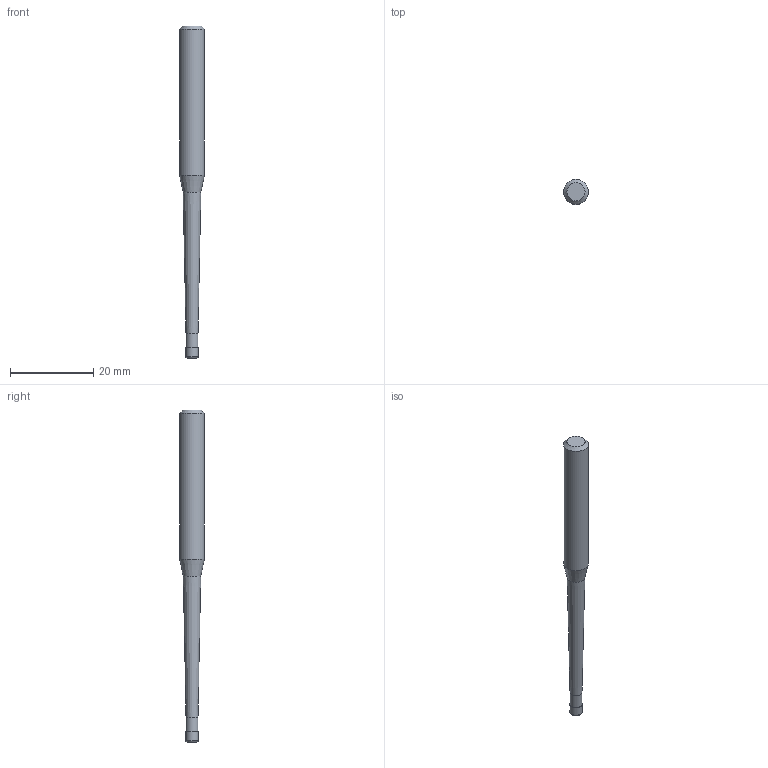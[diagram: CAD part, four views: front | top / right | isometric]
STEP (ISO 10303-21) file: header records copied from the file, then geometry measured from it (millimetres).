
FILE_DESCRIPTION((''),'2;1');
FILE_NAME('C:\Users\nsx150\AppData\Local\Temp\Mastercam 2021\YKS1SUSFZB\TEMP.step','2025-06-23T14:05:00',(''),(''),'STEP Write','Mastercam 2021 ... CNC Software, Inc.','');
FILE_SCHEMA(('AUTOMOTIVE_DESIGN'));
Length unit declared in the file: millimetre
Products named in the file (1): None
Bounding box: 6 x 6 x 80 mm (x, y, z)
Volume: 1483.2 mm3; surface area: 1220.6 mm2
Topology: 2 solids, 2 shells, 11 faces, 16 edges, 9 vertices
Faces by surface type: plane 4, cylinder 3, cone 3, torus 1
Full cylindrical faces by diameter (mm): 2.885 x1, 3 x1, 6 x1
Entity records: 253 total; most frequent: DIRECTION 44, CARTESIAN_POINT 31, AXIS2_PLACEMENT_3D 22, ORIENTED_EDGE 18, EDGE_LOOP 18, STYLED_ITEM 14, ADVANCED_FACE 11, FACE_BOUND 11
